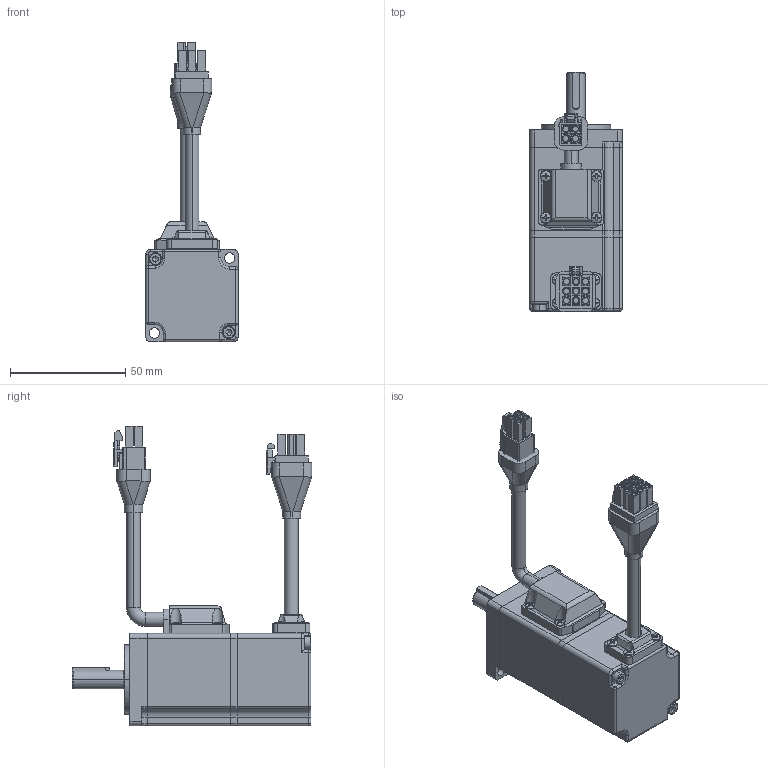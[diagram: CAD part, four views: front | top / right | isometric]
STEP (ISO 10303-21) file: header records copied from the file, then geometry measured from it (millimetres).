
FILE_DESCRIPTION (( 'STEP AP203' ), '1' );
FILE_NAME ('L-50.STEP', '2019-08-21T06:38:20', ( '1' ), ( 'MideaGroup IT' ), 'SwSTEP 2.0', 'SolidWorks 2012', '' );
FILE_SCHEMA (( 'CONFIG_CONTROL_DESIGN' ));
Length unit declared in the file: millimetre
Products named in the file (32): L-50; 煦极宒晤鎢ん源偶; R40瑩; 蛌赽軞傖; Rolling bearings 609 GB 276-94_Rolling bearings 609 GB 276-94; 萇儂粣; 綴傷裔; 晤鎢ん裔軞傖; M3X28_GB_FASTENER_SCREWS_HSHCS M3X25-C; 晤鎢ん陓瘍盄; 毀嚏盄揤裔郪璃; 毀嚏盄傷赽揤裔; 晤鎢ん盄傷赽; 晤鎢ん盄揤裔躇猾; 晤鎢ん盄揤裔; 綴裔; ヶ傷裔蚾饜极; 嘎殤蚐猾; M3X10_GB_FASTENER_SCREWS_HSHCS M3X10-C; ヶ傷裔; 隅赽郪璃; M2.5X4_GB_CROSS_SCREWS_TYPE3 M2.5X8-8-N; 垫片2.5_GB_FASTENER_WASHER_SMWC 2.5; 傷赽; 雄薯盄揤裔郪璃; 雄薯盄傷赽裔; M2.5X5_GB_CROSS_SCREWS_TYPE3 M2.5X8-8-N; 雄薯盄; 雄薯盄傷赽; 雄薯盄躇猾菜; 雄薯盄揤裔; 儂褲
Assembly tree (40 placements, depth 4):
  L-50
    隅赽郪璃
      儂褲
      雄薯盄揤裔郪璃
        雄薯盄揤裔
        雄薯盄躇猾菜
        雄薯盄傷赽
        雄薯盄
        M2.5X5_GB_CROSS_SCREWS_TYPE3 M2.5X8-8-N  x4
        雄薯盄傷赽裔
      傷赽
      垫片2.5_GB_FASTENER_WASHER_SMWC 2.5
      M2.5X4_GB_CROSS_SCREWS_TYPE3 M2.5X8-8-N
    ヶ傷裔蚾饜极
      ヶ傷裔
      M3X10_GB_FASTENER_SCREWS_HSHCS M3X10-C  x2
      嘎殤蚐猾
    晤鎢ん裔軞傖
      綴裔
      毀嚏盄揤裔郪璃
        晤鎢ん盄揤裔
        晤鎢ん盄揤裔躇猾
        晤鎢ん盄傷赽
        M2.5X5_GB_CROSS_SCREWS_TYPE3 M2.5X8-8-N  x4
        毀嚏盄傷赽揤裔
      晤鎢ん陓瘍盄
      M3X28_GB_FASTENER_SCREWS_HSHCS M3X25-C  x2
    煦极宒晤鎢ん源偶
      綴傷裔
      蛌赽軞傖
        萇儂粣
        Rolling bearings 609 GB 276-94_Rolling bearings 609 GB 276-94
      R40瑩
Bounding box: 40 x 103.86 x 129.8 mm (x, y, z)
Volume: 108326.3 mm3; surface area: 55396.7 mm2
Topology: 34 solids, 67 shells, 1437 faces, 3984 edges, 2615 vertices
Faces by surface type: plane 657, cylinder 517, torus 98, cone 87, sphere 50, bspline 28
Entity records: 48115 total; most frequent: CARTESIAN_POINT 13637, DIRECTION 6541, ORIENTED_EDGE 6243, EDGE_CURVE 3316, AXIS2_PLACEMENT_3D 2381, VERTEX_POINT 2193, LINE 1779, VECTOR 1779
